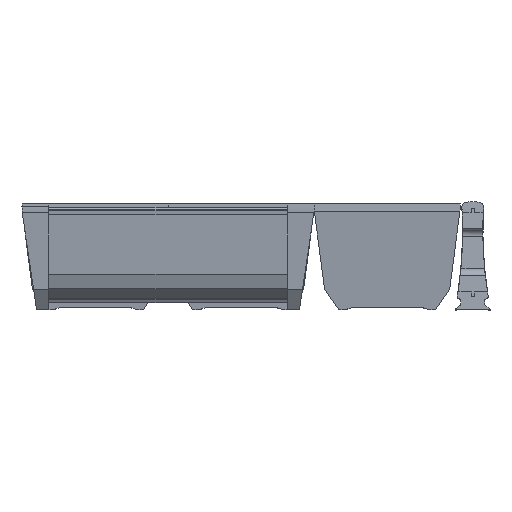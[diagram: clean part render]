
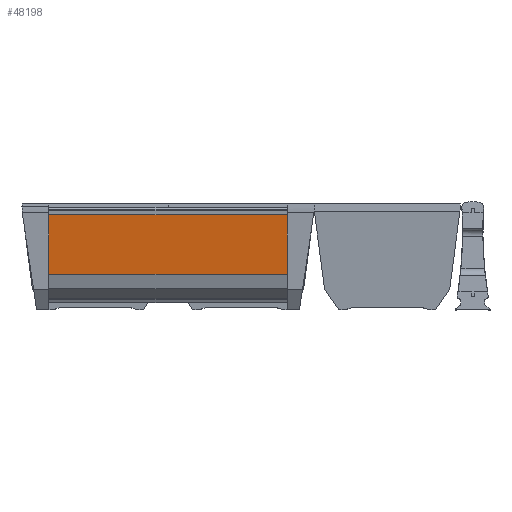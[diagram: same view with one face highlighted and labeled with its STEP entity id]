
A CAD part, front view. The second image highlights one B-rep face of the part: STEP entity #48198.
In plain terms, the highlighted planar face has unit normal (0, -0.991, -0.131).
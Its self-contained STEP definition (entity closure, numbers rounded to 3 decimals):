
#5108 = VERTEX_POINT ( 'NONE', #5331 ) ;
#5125 = VERTEX_POINT ( 'NONE', #5348 ) ;
#5145 = VERTEX_POINT ( 'NONE', #5368 ) ;
#5331 = CARTESIAN_POINT ( 'NONE',  ( 16.5, 2.926, 61.998 ) ) ;
#5348 = CARTESIAN_POINT ( 'NONE',  ( 164.5, 8.199, 21.942 ) ) ;
#5368 = CARTESIAN_POINT ( 'NONE',  ( 164.5, 2.926, 61.998 ) ) ;
#7916 = AXIS2_PLACEMENT_3D ( 'NONE', #13923, #13933, #13934 ) ;
#13221 = FACE_OUTER_BOUND ( 'NONE', #44686, .T. ) ;
#13923 = CARTESIAN_POINT ( 'NONE',  ( 170., 8.199, 21.942 ) ) ;
#13924 = PLANE ( 'NONE',  #7916 ) ;
#13933 = DIRECTION ( 'NONE',  ( 0., 0.991, 0.131 ) ) ;
#13934 = DIRECTION ( 'NONE',  ( 0., -0.131, 0.991 ) ) ;
#16267 = EDGE_CURVE ( 'NONE', #5145, #5108, #40082, .T. ) ;
#16315 = EDGE_CURVE ( 'NONE', #5125, #53382, #40120, .T. ) ;
#16347 = EDGE_CURVE ( 'NONE', #53382, #5108, #40156, .T. ) ;
#16352 = EDGE_CURVE ( 'NONE', #5145, #5125, #40159, .T. ) ;
#40082 = LINE ( 'NONE', #52181, #40087 ) ;
#40087 = VECTOR ( 'NONE', #52182, 1000. ) ;
#40120 = LINE ( 'NONE', #52221, #40137 ) ;
#40137 = VECTOR ( 'NONE', #52229, 1000. ) ;
#40156 = LINE ( 'NONE', #52263, #40160 ) ;
#40159 = LINE ( 'NONE', #52267, #40162 ) ;
#40160 = VECTOR ( 'NONE', #52264, 1000. ) ;
#40162 = VECTOR ( 'NONE', #52268, 1000. ) ;
#41318 = CARTESIAN_POINT ( 'NONE',  ( 16.5, 8.199, 21.942 ) ) ;
#44686 = EDGE_LOOP ( 'NONE', ( #45735, #45736, #45737, #45738 ) ) ;
#45735 = ORIENTED_EDGE ( 'NONE', *, *, #16352, .F. ) ;
#45736 = ORIENTED_EDGE ( 'NONE', *, *, #16267, .T. ) ;
#45737 = ORIENTED_EDGE ( 'NONE', *, *, #16347, .F. ) ;
#45738 = ORIENTED_EDGE ( 'NONE', *, *, #16315, .F. ) ;
#48198 = ADVANCED_FACE ( 'NONE', ( #13221 ), #13924, .F. ) ;
#52181 = CARTESIAN_POINT ( 'NONE',  ( 170., 2.926, 61.998 ) ) ;
#52182 = DIRECTION ( 'NONE',  ( -1., 0., 0. ) ) ;
#52221 = CARTESIAN_POINT ( 'NONE',  ( 170., 8.199, 21.942 ) ) ;
#52229 = DIRECTION ( 'NONE',  ( -1., 0., 0. ) ) ;
#52263 = CARTESIAN_POINT ( 'NONE',  ( 16.5, 8.199, 21.942 ) ) ;
#52264 = DIRECTION ( 'NONE',  ( 0., -0.131, 0.991 ) ) ;
#52267 = CARTESIAN_POINT ( 'NONE',  ( 164.5, 8.199, 21.942 ) ) ;
#52268 = DIRECTION ( 'NONE',  ( 0., 0.131, -0.991 ) ) ;
#53382 = VERTEX_POINT ( 'NONE', #41318 ) ;
